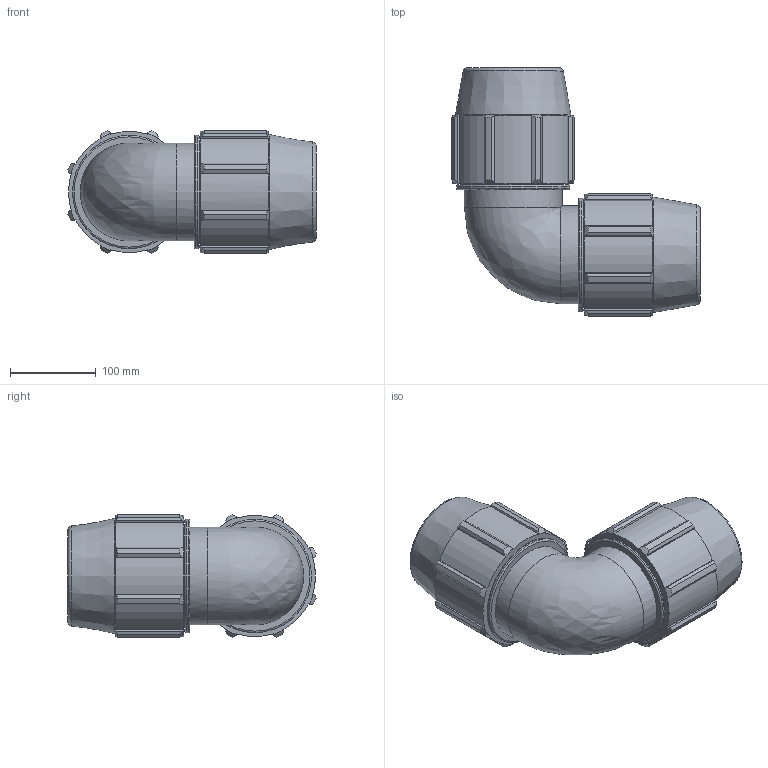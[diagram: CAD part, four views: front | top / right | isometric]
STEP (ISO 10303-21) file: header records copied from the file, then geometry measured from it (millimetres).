
FILE_DESCRIPTION(/* description */ ('PLASSON 90° ELBOW 3'''' - 3'''''),/* implementation_level */ '2;1');
FILE_NAME(/* name */ 'C:\Dropbox\KIMPROJECTS-Inventor 2019\99-16-3568-Processing Inch\ASTM Compression 2021\0705M0\0705M0030.ipt.stp',/* time_stamp */ '2021-08-26T12:32:01+03:00',/* author */ ('KIM'),/* organization */ (''),/* preprocessor_version */ 'ST-DEVELOPER v17.2',/* originating_system */ 'Autodesk Inventor 2019',/* authorisation */ '');
FILE_SCHEMA (('AUTOMOTIVE_DESIGN { 1 0 10303 214 3 1 1 }'));
Length unit declared in the file: inch
Products named in the file (1): 0705M0030
Bounding box: 289.39 x 289.39 x 142.92 mm (x, y, z)
Volume: 2972904.6 mm3; surface area: 327116.2 mm2
Topology: 1 solids, 1 shells, 148 faces, 436 edges, 298 vertices
Faces by surface type: plane 76, cylinder 40, cone 24, torus 7, bspline 1
Full cylindrical faces by diameter (mm): 88.7 x2, 113.919 x4, 132.146 x2
Entity records: 5177 total; most frequent: CARTESIAN_POINT 1035, ORIENTED_EDGE 868, DIRECTION 828, EDGE_CURVE 434, AXIS2_PLACEMENT_3D 310, VERTEX_POINT 298, LINE 208, VECTOR 208
